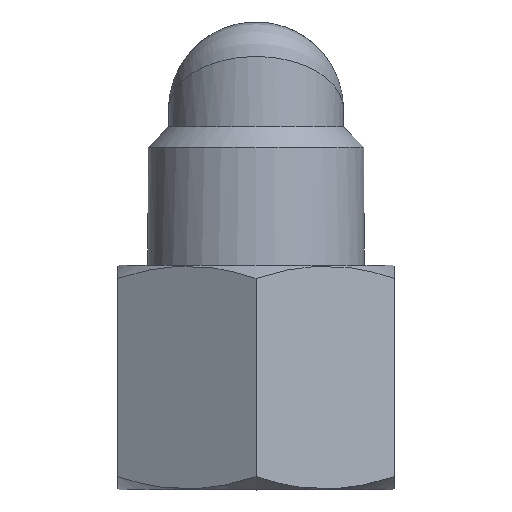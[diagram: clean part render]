
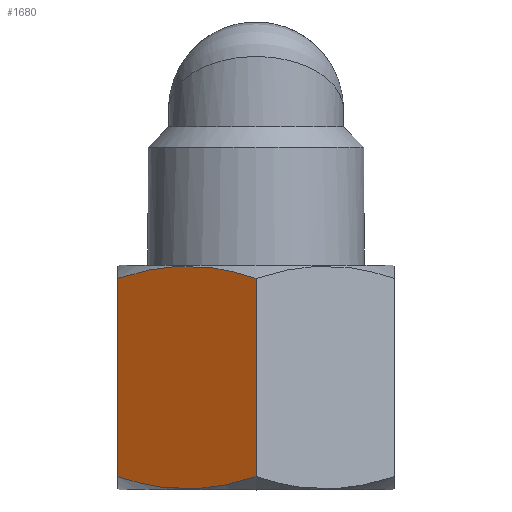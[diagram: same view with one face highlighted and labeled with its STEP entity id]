
A CAD part, left-side view. The second image highlights one B-rep face of the part: STEP entity #1680.
In plain terms, the highlighted planar face has unit normal (-0.866, 0.5, 0).
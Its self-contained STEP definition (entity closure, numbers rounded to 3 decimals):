
#1680=ADVANCED_FACE('', (#1690), #1700, .T.);
#5800=AXIS2_PLACEMENT_3D('Ax2Pl3d', #5810, #5820, #5830);
#18280=(B_SPLINE_CURVE(2, (#18290,#18300,#18310), .UNSPECIFIED., .F., 
.F.) B_SPLINE_CURVE_WITH_KNOTS((3,3), (0.,1.), .UNSPECIFIED.) 
BOUNDED_CURVE() CURVE() GEOMETRIC_REPRESENTATION_ITEM() 
RATIONAL_B_SPLINE_CURVE((1.,1.155,1.)) REPRESENTATION_ITEM(
'Nurb'));
#18480=(B_SPLINE_CURVE(2, (#18490,#18500,#18510), .UNSPECIFIED., .F., 
.F.) B_SPLINE_CURVE_WITH_KNOTS((3,3), (0.,1.), .UNSPECIFIED.) 
BOUNDED_CURVE() CURVE() GEOMETRIC_REPRESENTATION_ITEM() 
RATIONAL_B_SPLINE_CURVE((1.,1.155,1.)) REPRESENTATION_ITEM(
'Nurb'));
#21050=CARTESIAN_POINT('', (-1.49,9.497,-9.149))
;
#18290=CARTESIAN_POINT('', (3.129,17.497,-9.149))
;
#18300=CARTESIAN_POINT('', (0.82,13.497,-10.483)
);
#18310=CARTESIAN_POINT('', (-1.49,9.497,-9.149))
;
#21070=CARTESIAN_POINT('', (3.129,17.497,-9.149))
;
#5810=CARTESIAN_POINT('HicPkt', (3.129,17.497,
-9.926));
#21110=CARTESIAN_POINT('', (3.129,17.497,2.306));
#21120=CARTESIAN_POINT('', (3.129,17.497,2.306));
#21130=CARTESIAN_POINT('', (-1.49,9.497,2.306));
#21140=CARTESIAN_POINT('', (-1.49,9.497,2.306));
#18490=CARTESIAN_POINT('', (-1.49,9.497,2.306))
;
#18500=CARTESIAN_POINT('', (0.82,13.497,3.64))
;
#18510=CARTESIAN_POINT('', (3.129,17.497,2.306));
#5820=DIRECTION('Axis', (-0.866,0.5,
0.));
#5830=DIRECTION('RefDirection', (0.,
0.,-1.));
#24310=DIRECTION('', (0.,0.,1.));
#24320=DIRECTION('', (0.,0.,1.));
#25310=EDGE_CURVE('', #25320, #25290, #18280, .T.);
#25400=EDGE_CURVE('', #25320, #25410, #25420, .T.);
#25430=EDGE_CURVE('', #25290, #25440, #25450, .T.);
#25460=EDGE_CURVE('', #25440, #25410, #18480, .T.);
#27620=EDGE_LOOP('Edge_loop', (#27630,#27640,#27650,#27660));
#1690=FACE_OUTER_BOUND('Face_outer_bound', #27620, .T.);
#25420=LINE('Line', #21110, #29190);
#25450=LINE('Line', #21130, #29200);
#27630=ORIENTED_EDGE('', *, *, #25400, .F.);
#27640=ORIENTED_EDGE('', *, *, #25310, .T.);
#27650=ORIENTED_EDGE('', *, *, #25430, .T.);
#27660=ORIENTED_EDGE('', *, *, #25460, .T.);
#1700=PLANE('Plane', #5800);
#29190=VECTOR('', #24310, 11.455);
#29200=VECTOR('', #24320, 11.455);
#25290=VERTEX_POINT('', #21050);
#25320=VERTEX_POINT('', #21070);
#25410=VERTEX_POINT('', #21120);
#25440=VERTEX_POINT('', #21140);
